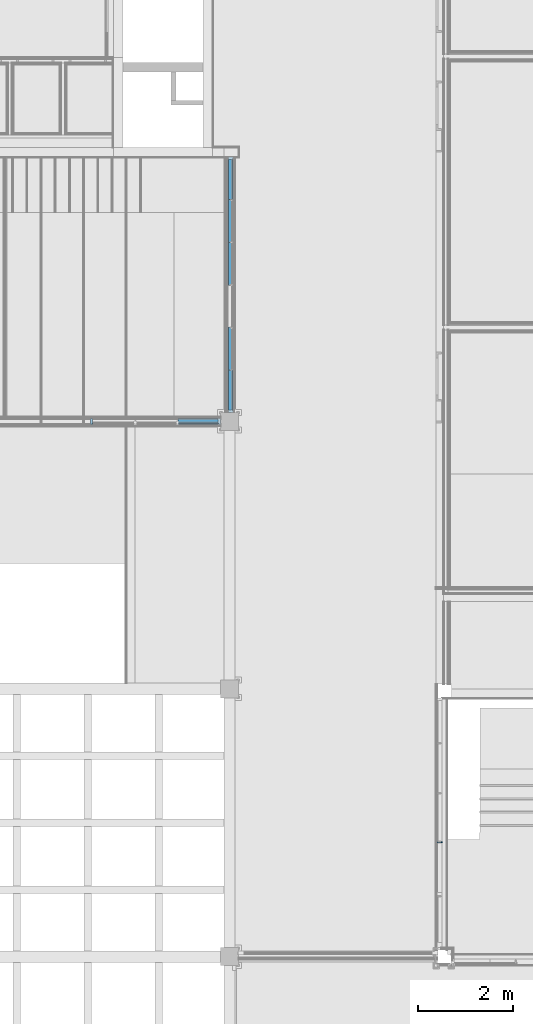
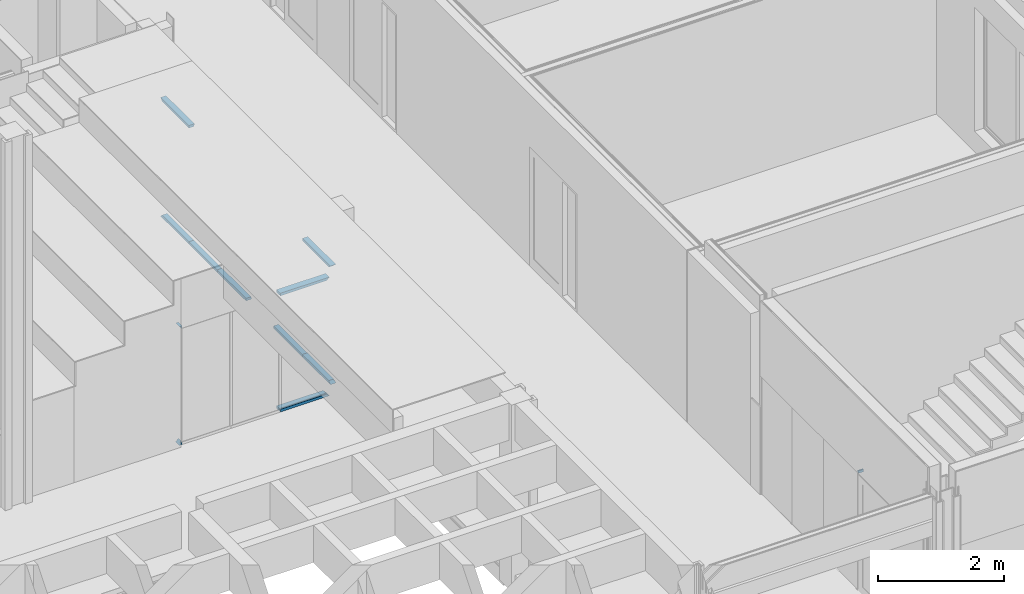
# One storey, part 49 of 139: 12 members, 3 elements without a shape of their own.
"""IFC2X3 building model written with IfcOpenShell, lengths in millimetres."""

from ifc_helpers import new_model, entity, si_unit, converted_unit, derived_unit, money_unit, direction, frame, origin_with_axes, place, context, subcontext, project, spatial, faceted_brep, material, type_object, element, aggregate, save


model = new_model("IFC2X3")

# Units and contexts
model_context = context("Model", 3, precision=0.01, world=origin_with_axes(), true_north=direction((0.0, 1.0)))
body_context = subcontext(model_context, "Body", "Model", "MODEL_VIEW")
ifc_project = project(units=[si_unit("LENGTHUNIT", "METRE", prefix="MILLI"), si_unit("AREAUNIT", "SQUARE_METRE"), si_unit("VOLUMEUNIT", "CUBIC_METRE"), converted_unit("PLANEANGLEUNIT", "DEGREE", entity("IfcPlaneAngleMeasure", 0.0174532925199), si_unit("PLANEANGLEUNIT", "RADIAN"), dimensions=[0, 0, 0, 0, 0, 0, 0]), money_unit("EUR"), converted_unit("TIMEUNIT", "Year", entity("IfcTimeMeasure", 31556926.0), si_unit("TIMEUNIT", "SECOND"), dimensions=[0, 0, 1, 0, 0, 0, 0]), si_unit("MASSUNIT", "GRAM", prefix="KILO"), si_unit("THERMODYNAMICTEMPERATUREUNIT", "DEGREE_CELSIUS"), si_unit("LUMINOUSINTENSITYUNIT", "LUMEN"), si_unit("ENERGYUNIT", "JOULE", prefix="MEGA"), derived_unit("THERMALCONDUCTANCEUNIT", [(si_unit("POWERUNIT", "WATT"), 1), (si_unit("LENGTHUNIT", "METRE"), -1), (si_unit("THERMODYNAMICTEMPERATUREUNIT", "KELVIN"), -1)]), derived_unit("SPECIFICHEATCAPACITYUNIT", [(si_unit("ENERGYUNIT", "JOULE"), 1), (si_unit("MASSUNIT", "GRAM", prefix="KILO"), -1), (si_unit("THERMODYNAMICTEMPERATUREUNIT", "KELVIN"), -1)]), derived_unit("MASSDENSITYUNIT", [(si_unit("MASSUNIT", "GRAM", prefix="KILO"), 1), (si_unit("VOLUMEUNIT", "CUBIC_METRE"), -1)])], contexts=[model_context])

# Site, building, storey
site_placement = place(None, origin_with_axes())
site = spatial("IfcSite", under=ifc_project, at=site_placement, Name="Kolde pst 67a", CompositionType="ELEMENT")
building_placement = place(site_placement, origin_with_axes())
building = spatial("IfcBuilding", under=site, at=building_placement, Name="Riigigümnaasium", CompositionType="ELEMENT")
storey_placement = place(building_placement, frame((0.0, 0.0, 4600.0), z_axis=(0.0, 0.0, 1.0), x_axis=(1.0, 0.0, 0.0)))
storey = spatial("IfcBuildingStorey", under=building, at=storey_placement, Name="2. korrus", CompositionType="ELEMENT", Elevation=4600.0)

# Curtain wall, members
curtain_wall_type = type_object("IfcCurtainWallType", Name="Curtain Wall Type", PredefinedType="NOTDEFINED")
curtain_wall_1_placement = place(storey_placement, frame((48304.9854607, 45219.9999598, 0.0), z_axis=(0.0, 0.0, 1.0), x_axis=(1.0, 0.0, 0.0)))
curtain_wall_1 = element("IfcCurtainWall", 1, at=curtain_wall_1_placement, inside=storey, type_object=curtain_wall_type, Name="KLAASSEIN")
ifc_material_1 = material(Name="_KANDETARIND - puitkarkass")
member_type_1 = type_object("IfcMemberType", Name="Boundary Frame 50 x 100", PredefinedType="MEMBER")
member_1_placement = place(curtain_wall_1_placement, frame((0.0, 450.0, 0.0), z_axis=(0.0, -1.0, 0.0), x_axis=(0.0, 0.0, 1.0)))
member_1 = element("IfcMember", 2, at=member_1_placement, type_object=member_type_1, material=ifc_material_1, Name="RF RAAM SERV-192", ObjectType="MEMBER", context=body_context, shape_type="Brep", body=[
    faceted_brep([(50.0, 10.0, 50.0), (50.0, 100.0, 50.0), (50.0, 100.0, 900.0), (50.0, 10.0, 900.0), (25.0, 10.0, 25.0), (25.0, 0.0, 25.0), (0.0, 0.0, 0.0), (0.0, 100.0, 0.0), (0.0, 100.0, 900.0), (25.0, 10.0, 900.0), (0.0, 0.0, 900.0), (25.0, 0.0, 900.0)], [[[0, 1, 2, 3]], [[4, 5, 6, 7, 1, 0]], [[2, 1, 7, 8]], [[9, 3, 2, 8, 10, 11]], [[9, 4, 0, 3]], [[5, 4, 9, 11]], [[11, 10, 6, 5]], [[8, 7, 6, 10]]]),
])
member_2_placement = place(curtain_wall_1_placement, frame((0.0, 450.0, 2300.00008941), z_axis=(0.0, -1.0, 0.0), x_axis=(0.0, 0.0, 1.0)))
member_2 = element("IfcMember", 3, at=member_2_placement, type_object=member_type_1, material=ifc_material_1, Name="RF RAAM SERV-204", ObjectType="MEMBER", context=body_context, shape_type="Brep", body=[
    faceted_brep([(-50.0, 10.0, 50.0), (-50.0, 10.0, 900.0), (-50.0, 100.0, 900.0), (-50.0, 100.0, 50.0), (-25.0, 10.0, 900.0), (-25.0, 10.0, 25.0), (-25.0, 0.0, 900.0), (0.0, 0.0, 900.0), (0.0, 100.0, 900.0), (0.0, 100.0, 0.0), (0.0, 0.0, 0.0), (-25.0, 0.0, 25.0)], [[[0, 1, 2, 3]], [[4, 1, 0, 5]], [[4, 6, 7, 8, 2, 1]], [[2, 8, 9, 3]], [[5, 0, 3, 9, 10, 11]], [[11, 6, 4, 5]], [[6, 11, 10, 7]], [[8, 7, 10, 9]]]),
])
member_3_placement = place(curtain_wall_1_placement, frame((0.0, -450.0, 0.0), z_axis=(0.0, -1.0, 0.0), x_axis=(0.0, 0.0, 1.0)))
member_3 = element("IfcMember", 4, at=member_3_placement, type_object=member_type_1, material=ifc_material_1, Name="RF RAAM SERV-193", ObjectType="MEMBER", context=body_context, shape_type="Brep", body=[
    faceted_brep([(50.0, 10.0, 0.0), (50.0, 100.0, 0.0), (50.0, 100.0, 900.0), (50.0, 10.0, 900.0), (25.0, 10.0, 0.0), (25.0, 0.0, 0.0), (0.0, 0.0, 0.0), (0.0, 100.0, 0.0), (0.0, 100.0, 900.0), (25.0, 10.0, 900.0), (0.0, 0.0, 900.0), (25.0, 0.0, 900.0)], [[[0, 1, 2, 3]], [[4, 5, 6, 7, 1, 0]], [[1, 7, 8, 2]], [[9, 3, 2, 8, 10, 11]], [[9, 4, 0, 3]], [[5, 4, 9, 11]], [[11, 10, 6, 5]], [[7, 6, 10, 8]]]),
])
member_4_placement = place(curtain_wall_1_placement, frame((0.0, -1350.0, 0.0), z_axis=(0.0, -1.0, 0.0), x_axis=(0.0, 0.0, 1.0)))
member_4 = element("IfcMember", 5, at=member_4_placement, type_object=member_type_1, material=ifc_material_1, Name="RF RAAM SERV-194", ObjectType="MEMBER", context=body_context, shape_type="Brep", body=[
    faceted_brep([(50.0, 10.0, 0.0), (50.0, 100.0, 0.0), (50.0, 100.0, 910.0), (50.0, 10.0, 910.0), (25.0, 10.0, 0.0), (25.0, 0.0, 0.0), (0.0, 0.0, 0.0), (0.0, 100.0, 0.0), (0.0, 100.0, 910.0), (25.0, 10.0, 910.0), (0.0, 0.0, 910.0), (25.0, 0.0, 910.0)], [[[0, 1, 2, 3]], [[4, 5, 6, 7, 1, 0]], [[1, 7, 8, 2]], [[9, 3, 2, 8, 10, 11]], [[9, 4, 0, 3]], [[5, 4, 9, 11]], [[11, 10, 6, 5]], [[7, 6, 10, 8]]]),
])
member_5_placement = place(curtain_wall_1_placement, frame((0.0, -3150.0, 0.0), z_axis=(0.0, -1.0, 0.0), x_axis=(0.0, 0.0, 1.0)))
member_5 = element("IfcMember", 6, at=member_5_placement, type_object=member_type_1, material=ifc_material_1, Name="RF RAAM SERV-196", ObjectType="MEMBER", context=body_context, shape_type="Brep", body=[
    faceted_brep([(50.0, 10.0, -10.0), (50.0, 100.0, -10.0), (50.0, 100.0, 900.0), (50.0, 10.0, 900.0), (25.0, 10.0, -10.0), (25.0, 0.0, -10.0), (0.0, 0.0, -10.0), (0.0, 100.0, -10.0), (0.0, 100.0, 900.0), (25.0, 10.0, 900.0), (0.0, 0.0, 900.0), (25.0, 0.0, 900.0)], [[[0, 1, 2, 3]], [[4, 5, 6, 7, 1, 0]], [[1, 7, 8, 2]], [[9, 3, 2, 8, 10, 11]], [[9, 4, 0, 3]], [[5, 4, 9, 11]], [[11, 10, 6, 5]], [[7, 6, 10, 8]]]),
])
member_6_placement = place(curtain_wall_1_placement, frame((0.0, -4050.0, 2300.00008941), z_axis=(0.0, -1.0, 0.0), x_axis=(0.0, 0.0, 1.0)))
member_6 = element("IfcMember", 7, at=member_6_placement, type_object=member_type_1, material=ifc_material_1, Name="RF RAAM SERV-199", ObjectType="MEMBER", context=body_context, shape_type="Brep", body=[
    faceted_brep([(-50.0, 10.0, 0.0), (-50.0, 10.0, 839.999964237), (-50.0, 100.0, 839.999964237), (-50.0, 100.0, 0.0), (-25.0, 10.0, 864.999964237), (-25.0, 10.0, 0.0), (-25.0, 0.0, 864.999964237), (0.0, 0.0, 889.999964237), (0.0, 100.0, 889.999964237), (0.0, 100.0, 0.0), (0.0, 0.0, 0.0), (-25.0, 0.0, 0.0)], [[[0, 1, 2, 3]], [[4, 1, 0, 5]], [[4, 6, 7, 8, 2, 1]], [[3, 2, 8, 9]], [[5, 0, 3, 9, 10, 11]], [[11, 6, 4, 5]], [[6, 11, 10, 7]], [[9, 8, 7, 10]]]),
])
member_7_placement = place(curtain_wall_1_placement, frame((0.0, -4050.0, 0.0), z_axis=(0.0, -1.0, 0.0), x_axis=(0.0, 0.0, 1.0)))
member_7 = element("IfcMember", 8, at=member_7_placement, type_object=member_type_1, material=ifc_material_1, Name="RF RAAM SERV-197", ObjectType="MEMBER", context=body_context, shape_type="Brep", body=[
    faceted_brep([(50.0, 10.0, 0.0), (50.0, 100.0, 0.0), (50.0, 100.0, 839.999964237), (50.0, 10.0, 839.999964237), (25.0, 10.0, 0.0), (25.0, 0.0, 0.0), (0.0, 0.0, 0.0), (0.0, 100.0, 0.0), (0.0, 100.0, 889.999964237), (25.0, 10.0, 864.999964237), (0.0, 0.0, 889.999964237), (25.0, 0.0, 864.999964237)], [[[0, 1, 2, 3]], [[4, 5, 6, 7, 1, 0]], [[1, 7, 8, 2]], [[9, 3, 2, 8, 10, 11]], [[9, 4, 0, 3]], [[5, 4, 9, 11]], [[11, 10, 6, 5]], [[7, 6, 10, 8]]]),
])
aggregate(curtain_wall_1, [member_1, member_2, member_3, member_4, member_5, member_6, member_7])

# Curtain wall, member
curtain_wall_2_placement = place(storey_placement, frame((52619.9941222, 32759.7635899, -0.000120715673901), z_axis=(0.0, 0.0, 1.0), x_axis=(1.0, 0.0, 0.0)))
curtain_wall_2 = element("IfcCurtainWall", 9, at=curtain_wall_2_placement, inside=storey, type_object=curtain_wall_type, Name="KLAASSEIN")
ifc_material_2 = material(Name="_GENEERILINE MATERJAL")
member_8_placement = place(curtain_wall_2_placement, frame((0.0, -1553.00000076, 2300.00012072), z_axis=(0.0, -1.0, 0.0), x_axis=(0.0, 0.0, 1.0)))
member_8 = element("IfcMember", 10, at=member_8_placement, type_object=member_type_1, material=ifc_material_2, Name="RF RAAM SERV-601", ObjectType="MEMBER", context=body_context, shape_type="Brep", body=[
    faceted_brep([(-50.0, -10.0, 0.0), (-50.0, -100.0, 0.0), (-50.0, -100.0, 21.9999992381), (-50.0, -10.0, 21.9999992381), (-25.0, -10.0, 0.0), (-25.0, 0.0, 0.0), (0.0, 0.0, 0.0), (0.0, -100.0, 0.0), (0.0, -100.0, 21.9999992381), (-25.0, -10.0, 21.9999992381), (0.0, 0.0, 21.9999992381), (-25.0, 0.0, 21.9999992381)], [[[0, 1, 2, 3]], [[4, 5, 6, 7, 1, 0]], [[1, 7, 8, 2]], [[9, 3, 2, 8, 10, 11]], [[9, 4, 0, 3]], [[5, 4, 9, 11]], [[11, 10, 6, 5]], [[7, 6, 10, 8]]]),
])
aggregate(curtain_wall_2, [member_8])

# Curtain wall, members
curtain_wall_3_placement = place(storey_placement, frame((47589.9854607, 40044.9999177, -2.01657108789e-05), z_axis=(0.0, 0.0, 1.0), x_axis=(1.0, 0.0, 0.0)))
curtain_wall_3 = element("IfcCurtainWall", 11, at=curtain_wall_3_placement, inside=storey, type_object=curtain_wall_type, Name="KLAASSEIN")
member_type_2 = type_object("IfcMemberType", Name="Boundary Frame 50 x 120", PredefinedType="MEMBER")
member_9_placement = place(curtain_wall_3_placement, frame((450.0, 0.0, 0.0), z_axis=(-1.0, 0.0, 0.0), x_axis=(0.0, 0.0, 1.0)))
member_9 = element("IfcMember", 12, at=member_9_placement, type_object=member_type_2, material=ifc_material_1, Name="RF RAAM SERV-142", ObjectType="MEMBER", context=body_context, shape_type="Brep", body=[
    faceted_brep([(30.0, 10.0, 900.0), (50.0, 10.0, 900.0), (50.0, 100.0, 900.0), (0.0, 100.0, 900.0), (0.0, -20.0, 900.0), (50.0, -20.0, 900.0), (50.0, -10.0, 900.0), (30.0, -10.0, 900.0), (30.0, 10.0, 30.0), (50.0, 10.0, 50.0), (50.0, 100.0, 50.0), (0.0, 100.0, 0.0), (0.0, -20.0, 0.0), (50.0, -20.0, 50.0), (50.0, -10.0, 50.0), (30.0, -10.0, 30.0)], [[[0, 1, 2, 3, 4, 5, 6, 7]], [[0, 8, 9, 1]], [[9, 10, 2, 1]], [[2, 10, 11, 3]], [[3, 11, 12, 4]], [[4, 12, 13, 5]], [[6, 5, 13, 14]], [[14, 15, 7, 6]], [[7, 15, 8, 0]], [[8, 15, 14, 13, 12, 11, 10, 9]]]),
])
member_10_placement = place(curtain_wall_3_placement, frame((450.0, 0.0, 2300.00002017), z_axis=(-1.0, 0.0, 0.0), x_axis=(0.0, 0.0, 1.0)))
member_10 = element("IfcMember", 13, at=member_10_placement, type_object=member_type_2, material=ifc_material_1, Name="RF RAAM SERV-150", ObjectType="MEMBER", context=body_context, shape_type="Brep", body=[
    faceted_brep([(-30.0, 10.0, 900.0), (-30.0, -10.0, 900.0), (-50.0, -10.0, 900.0), (-50.0, -20.0, 900.0), (0.0, -20.0, 900.0), (0.0, 100.0, 900.0), (-50.0, 100.0, 900.0), (-50.0, 10.0, 900.0), (-30.0, 10.0, 30.0), (-30.0, -10.0, 30.0), (-50.0, -10.0, 50.0), (-50.0, -20.0, 50.0), (0.0, -20.0, 0.0), (0.0, 100.0, 0.0), (-50.0, 100.0, 50.0), (-50.0, 10.0, 50.0)], [[[0, 1, 2, 3, 4, 5, 6, 7]], [[1, 0, 8, 9]], [[10, 2, 1, 9]], [[2, 10, 11, 3]], [[4, 3, 11, 12]], [[5, 4, 12, 13]], [[6, 5, 13, 14]], [[15, 7, 6, 14]], [[0, 7, 15, 8]], [[8, 15, 14, 13, 12, 11, 10, 9]]]),
])
member_11_placement = place(curtain_wall_3_placement, frame((-2250.0, 0.0, 2300.00002017), z_axis=(-1.0, 0.0, 0.0), x_axis=(0.0, 0.0, 1.0)))
member_11 = element("IfcMember", 14, at=member_11_placement, type_object=member_type_2, material=ifc_material_1, Name="RF RAAM SERV-147", ObjectType="MEMBER", context=body_context, shape_type="Brep", body=[
    faceted_brep([(-30.0, 10.0, 20.0000178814), (-30.0, -10.0, 20.0000178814), (-50.0, -10.0, 1.78814119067e-05), (-50.0, -20.0, 1.78814119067e-05), (0.0, -20.0, 50.0000178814), (0.0, 100.0, 50.0000178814), (-50.0, 100.0, 1.78814119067e-05), (-50.0, 10.0, 1.78814119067e-05), (-30.0, 10.0, 0.0), (-30.0, -10.0, 0.0), (0.0, 100.0, 0.0), (0.0, -20.0, 0.0)], [[[0, 1, 2, 3, 4, 5, 6, 7]], [[1, 0, 8, 9]], [[9, 2, 1]], [[8, 7, 6, 10, 11, 3, 2, 9]], [[11, 4, 3]], [[10, 5, 4, 11]], [[10, 6, 5]], [[0, 7, 8]]]),
])
member_12_placement = place(curtain_wall_3_placement, frame((-2250.0, 0.0, 0.0), z_axis=(-1.0, 0.0, 0.0), x_axis=(0.0, 0.0, 1.0)))
member_12 = element("IfcMember", 15, at=member_12_placement, type_object=member_type_2, material=ifc_material_1, Name="RF RAAM SERV-145", ObjectType="MEMBER", context=body_context, shape_type="Brep", body=[
    faceted_brep([(30.0, 10.0, 20.0000178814), (50.0, 10.0, 1.78814119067e-05), (50.0, 100.0, 1.78814119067e-05), (0.0, 100.0, 50.0000178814), (0.0, -20.0, 50.0000178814), (50.0, -20.0, 1.78814119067e-05), (50.0, -10.0, 1.78814119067e-05), (30.0, -10.0, 20.0000178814), (30.0, 10.0, 0.0), (30.0, -10.0, 0.0), (0.0, -20.0, 0.0), (0.0, 100.0, 0.0)], [[[0, 1, 2, 3, 4, 5, 6, 7]], [[0, 8, 1]], [[8, 9, 6, 5, 10, 11, 2, 1]], [[11, 3, 2]], [[11, 10, 4, 3]], [[10, 5, 4]], [[9, 7, 6]], [[7, 9, 8, 0]]]),
])
aggregate(curtain_wall_3, [member_9, member_10, member_11, member_12])

save(model, "model.ifc")
